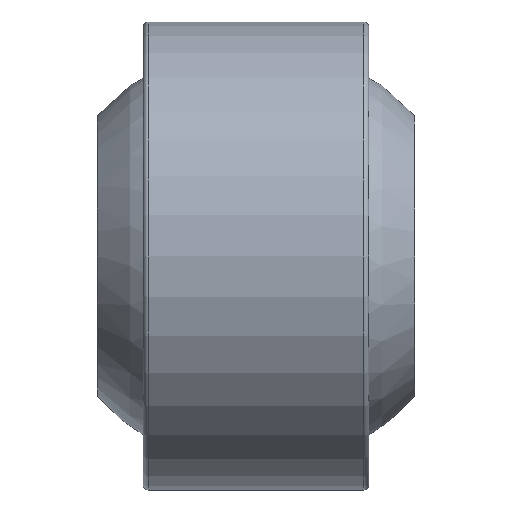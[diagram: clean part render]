
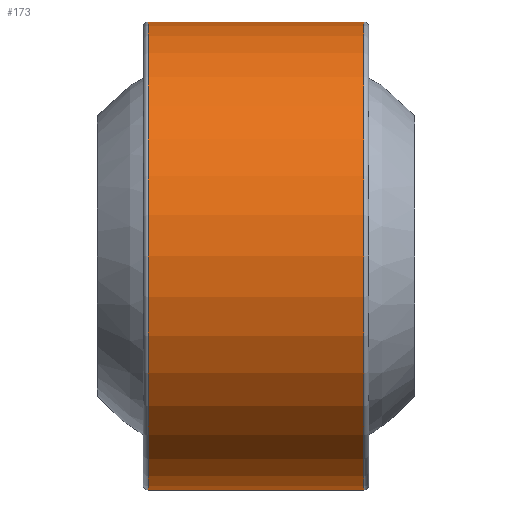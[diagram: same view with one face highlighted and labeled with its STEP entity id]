
A CAD part, front view. The second image highlights one B-rep face of the part: STEP entity #173.
In plain terms, the highlighted cylindrical face has radius 14 mm (diameter 28 mm), a full revolution.
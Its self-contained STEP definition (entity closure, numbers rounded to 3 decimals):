
#173 = ADVANCED_FACE( '', ( #193, #194 ), #195, .T. );
#193 = FACE_OUTER_BOUND( '', #224, .T. );
#194 = FACE_OUTER_BOUND( '', #225, .T. );
#195 = CYLINDRICAL_SURFACE( '', #226, 14. );
#224 = EDGE_LOOP( '', ( #262 ) );
#225 = EDGE_LOOP( '', ( #263 ) );
#226 = AXIS2_PLACEMENT_3D( '', #264, #265, #266 );
#262 = ORIENTED_EDGE( '', *, *, #297, .T. );
#263 = ORIENTED_EDGE( '', *, *, #296, .F. );
#264 = CARTESIAN_POINT( '', ( 6.75, 0., 0. ) );
#265 = DIRECTION( '', ( -1., 0., 0. ) );
#266 = DIRECTION( '', ( 0., 0., -1. ) );
#296 = EDGE_CURVE( '', #310, #310, #311, .T. );
#297 = EDGE_CURVE( '', #312, #312, #313, .T. );
#310 = VERTEX_POINT( '', #330 );
#311 = CIRCLE( '', #331, 14. );
#312 = VERTEX_POINT( '', #332 );
#313 = CIRCLE( '', #333, 14. );
#330 = CARTESIAN_POINT( '', ( 6.45, 0., -14. ) );
#331 = AXIS2_PLACEMENT_3D( '', #354, #355, #356 );
#332 = CARTESIAN_POINT( '', ( -6.45, 0., -14. ) );
#333 = AXIS2_PLACEMENT_3D( '', #357, #358, #359 );
#354 = CARTESIAN_POINT( '', ( 6.45, 0., 0. ) );
#355 = DIRECTION( '', ( 1., 0., 0. ) );
#356 = DIRECTION( '', ( 0., 0., -1. ) );
#357 = CARTESIAN_POINT( '', ( -6.45, 0., 0. ) );
#358 = DIRECTION( '', ( 1., 0., 0. ) );
#359 = DIRECTION( '', ( 0., 0., -1. ) );
